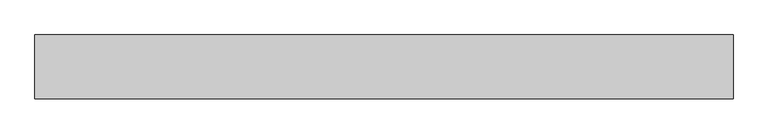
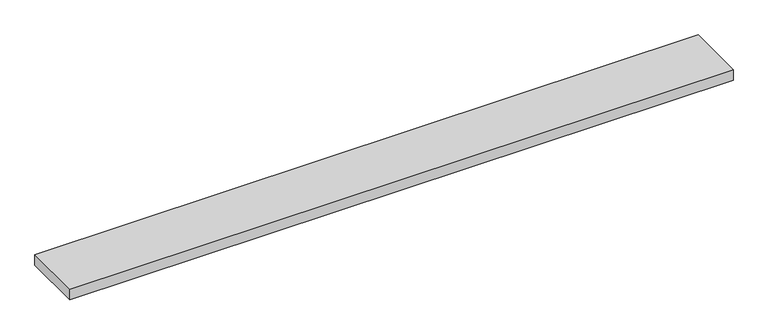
"""IFC4 building model written with IfcOpenShell, lengths in millimetres: proxy geometry, Vita_Решетка : РАП_Алюминиевая продольная."""

from ifc_helpers import new_model, si_unit, frame, origin, place, context, project, spatial, polyline, outline, extrude, source, transform, mapped, element, save


def mechanical_equipment_76ebc389(model_context):
    return source(origin(), model_context, "Body", "SweptSolid", [
        extrude(outline(polyline([(-599.0, -112.8), (599.0, -112.8), (599.0, -222.2), (-599.0, -222.2), (-599.0, -112.8)])), frame((0.0, 0.0, 159.83), z_axis=(0.0, 0.0, 1.0), x_axis=(1.0, 0.0, 0.0)), (0.0, 0.0, 1.0), 20.17),
    ])


if __name__ == "__main__":
    model = new_model("IFC4")
    model_context = context("Model", 3, world=origin())
    ifc_project = project(units=[si_unit("LENGTHUNIT", "METRE", prefix="MILLI")], contexts=[model_context])
    site = spatial("IfcSite", under=ifc_project)
    building = spatial("IfcBuilding", under=site)
    placement = place(None, origin())
    mechanical_equipment_shape = mechanical_equipment_76ebc389(model_context)
    element("IfcBuildingElementProxy", 1, Name="Vita_Решетка : РАП_Алюминиевая продольная", ObjectType="Vita_Решетка : РАП_Алюминиевая продольная", at=placement, inside=building, context=model_context, shape_type="MappedRepresentation", body=[
        mapped(mechanical_equipment_shape, transform((0.0, 0.0, 0.0), x_axis=(1.0, 0.0, 0.0), y_axis=(0.0, 1.0, 0.0), z_axis=(0.0, 0.0, 1.0))),
    ])
    save(model, "model.ifc")
